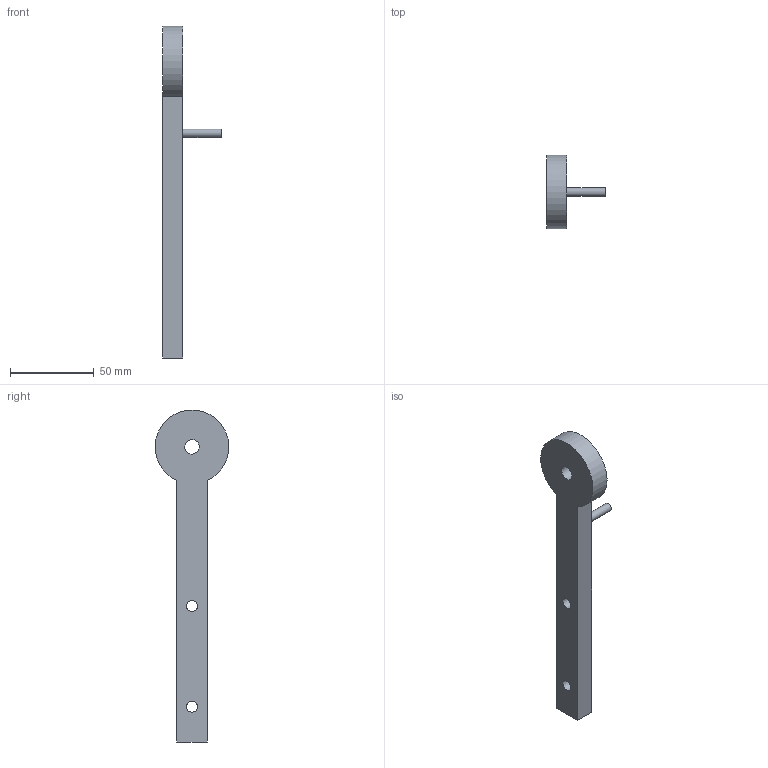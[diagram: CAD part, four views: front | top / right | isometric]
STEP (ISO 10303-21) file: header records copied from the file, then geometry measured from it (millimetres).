
FILE_DESCRIPTION(('Open CASCADE Model'),'2;1');
FILE_NAME('Open CASCADE Shape Model','2026-09-19T23:42:05',('Author'),( 'Open CASCADE'),'Open CASCADE STEP processor 7.9','Open CASCADE 7.9' ,'Unknown');
FILE_SCHEMA(('AUTOMOTIVE_DESIGN { 1 0 10303 214 1 1 1 1 }'));
Length unit declared in the file: millimetre
Products named in the file (1): Open CASCADE STEP translator 7.9 2
Bounding box: 35 x 43.96 x 198 mm (x, y, z)
Volume: 50563.6 mm3; surface area: 14933.3 mm2
Topology: 1 solids, 1 shells, 11 faces, 24 edges, 16 vertices
Faces by surface type: plane 6, cylinder 5
Full cylindrical faces by diameter (mm): 5 x1, 6.6 x2, 8.7 x1
Entity records: 643 total; most frequent: CARTESIAN_POINT 117, DIRECTION 99, ORIENTED_EDGE 48, PCURVE 48, DEFINITIONAL_REPRESENTATION 48, LINE 47, VECTOR 47, EDGE_CURVE 24
